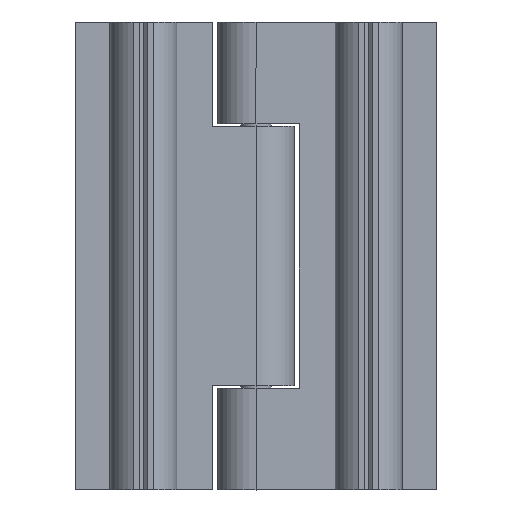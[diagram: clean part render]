
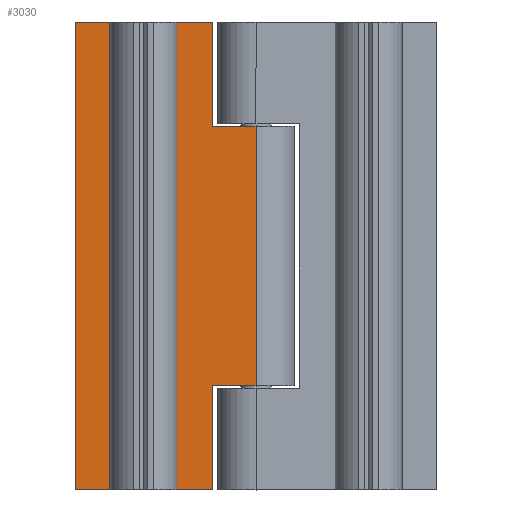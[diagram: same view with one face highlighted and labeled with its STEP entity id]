
A CAD part, top view. The second image highlights one B-rep face of the part: STEP entity #3030.
In plain terms, the highlighted planar face has unit normal (0, 0, 1).
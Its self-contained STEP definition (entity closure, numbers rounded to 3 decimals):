
#10 = CARTESIAN_POINT ( 'NONE',  ( 0., -25.5, 7.5 ) ) ;
#33 = VECTOR ( 'NONE', #1678, 1000. ) ;
#230 = DIRECTION ( 'NONE',  ( 0., -1., 0. ) ) ;
#268 = VECTOR ( 'NONE', #3311, 1000. ) ;
#299 = FACE_OUTER_BOUND ( 'NONE', #1759, .T. ) ;
#398 = ORIENTED_EDGE ( 'NONE', *, *, #1849, .F. ) ;
#457 = VERTEX_POINT ( 'NONE', #1279 ) ;
#459 = VECTOR ( 'NONE', #2544, 1000. ) ;
#548 = EDGE_CURVE ( 'NONE', #2606, #457, #1061, .T. ) ;
#551 = CARTESIAN_POINT ( 'NONE',  ( -8.5, 25.5, 7.5 ) ) ;
#589 = ORIENTED_EDGE ( 'NONE', *, *, #916, .T. ) ;
#705 = CARTESIAN_POINT ( 'NONE',  ( -17.75, -46., 7.5 ) ) ;
#750 = CARTESIAN_POINT ( 'NONE',  ( 0., 25.5, 7.5 ) ) ;
#753 = VERTEX_POINT ( 'NONE', #1485 ) ;
#755 = DIRECTION ( 'NONE',  ( 1., 0., 0. ) ) ;
#840 = VERTEX_POINT ( 'NONE', #955 ) ;
#883 = VECTOR ( 'NONE', #1461, 1000. ) ;
#916 = EDGE_CURVE ( 'NONE', #753, #3673, #1400, .T. ) ;
#955 = CARTESIAN_POINT ( 'NONE',  ( -8.5, 46., 7.5 ) ) ;
#1047 = CARTESIAN_POINT ( 'NONE',  ( 0., 0., 7.5 ) ) ;
#1061 = LINE ( 'NONE', #750, #1672 ) ;
#1206 = CARTESIAN_POINT ( 'NONE',  ( -8.5, -46., 7.5 ) ) ;
#1214 = EDGE_CURVE ( 'NONE', #3817, #753, #1252, .T. ) ;
#1252 = LINE ( 'NONE', #1544, #459 ) ;
#1279 = CARTESIAN_POINT ( 'NONE',  ( 0., 25.5, 7.5 ) ) ;
#1319 = CARTESIAN_POINT ( 'NONE',  ( -8.5, -25.5, 7.5 ) ) ;
#1349 = LINE ( 'NONE', #4027, #33 ) ;
#1371 = DIRECTION ( 'NONE',  ( 0., 0., 1. ) ) ;
#1400 = LINE ( 'NONE', #705, #268 ) ;
#1461 = DIRECTION ( 'NONE',  ( -1., 0., 0. ) ) ;
#1485 = CARTESIAN_POINT ( 'NONE',  ( -35.5, -46., 7.5 ) ) ;
#1544 = CARTESIAN_POINT ( 'NONE',  ( -35.5, 46., 7.5 ) ) ;
#1546 = VECTOR ( 'NONE', #230, 1000. ) ;
#1558 = CARTESIAN_POINT ( 'NONE',  ( -8.5, 25.5, 7.5 ) ) ;
#1575 = EDGE_CURVE ( 'NONE', #3065, #3673, #2812, .T. ) ;
#1586 = PLANE ( 'NONE',  #3728 ) ;
#1668 = ORIENTED_EDGE ( 'NONE', *, *, #548, .T. ) ;
#1672 = VECTOR ( 'NONE', #2700, 1000. ) ;
#1678 = DIRECTION ( 'NONE',  ( 0., -1., 0. ) ) ;
#1733 = LINE ( 'NONE', #2318, #2673 ) ;
#1759 = EDGE_LOOP ( 'NONE', ( #2467, #2003, #398, #3279, #589, #1929, #3238, #1668 ) ) ;
#1812 = VECTOR ( 'NONE', #2614, 1000. ) ;
#1849 = EDGE_CURVE ( 'NONE', #3817, #840, #1733, .T. ) ;
#1915 = EDGE_CURVE ( 'NONE', #840, #3336, #1349, .T. ) ;
#1929 = ORIENTED_EDGE ( 'NONE', *, *, #1575, .F. ) ;
#2003 = ORIENTED_EDGE ( 'NONE', *, *, #1915, .F. ) ;
#2014 = CARTESIAN_POINT ( 'NONE',  ( -35.5, 46., 7.5 ) ) ;
#2318 = CARTESIAN_POINT ( 'NONE',  ( -35.5, 46., 7.5 ) ) ;
#2467 = ORIENTED_EDGE ( 'NONE', *, *, #3639, .T. ) ;
#2544 = DIRECTION ( 'NONE',  ( 0., -1., 0. ) ) ;
#2606 = VERTEX_POINT ( 'NONE', #10 ) ;
#2614 = DIRECTION ( 'NONE',  ( 1., 0., 0. ) ) ;
#2673 = VECTOR ( 'NONE', #3625, 1000. ) ;
#2700 = DIRECTION ( 'NONE',  ( 0., 1., 0. ) ) ;
#2812 = LINE ( 'NONE', #4073, #1546 ) ;
#3030 = ADVANCED_FACE ( 'NONE', ( #299 ), #1586, .T. ) ;
#3065 = VERTEX_POINT ( 'NONE', #4008 ) ;
#3238 = ORIENTED_EDGE ( 'NONE', *, *, #3425, .T. ) ;
#3279 = ORIENTED_EDGE ( 'NONE', *, *, #1214, .T. ) ;
#3311 = DIRECTION ( 'NONE',  ( 1., 0., 0. ) ) ;
#3336 = VERTEX_POINT ( 'NONE', #1558 ) ;
#3400 = LINE ( 'NONE', #551, #883 ) ;
#3425 = EDGE_CURVE ( 'NONE', #3065, #2606, #3854, .T. ) ;
#3625 = DIRECTION ( 'NONE',  ( 1., 0., 0. ) ) ;
#3639 = EDGE_CURVE ( 'NONE', #457, #3336, #3400, .T. ) ;
#3673 = VERTEX_POINT ( 'NONE', #1206 ) ;
#3728 = AXIS2_PLACEMENT_3D ( 'NONE', #1047, #1371, #755 ) ;
#3817 = VERTEX_POINT ( 'NONE', #2014 ) ;
#3854 = LINE ( 'NONE', #1319, #1812 ) ;
#4008 = CARTESIAN_POINT ( 'NONE',  ( -8.5, -25.5, 7.5 ) ) ;
#4027 = CARTESIAN_POINT ( 'NONE',  ( -8.5, 46., 7.5 ) ) ;
#4073 = CARTESIAN_POINT ( 'NONE',  ( -8.5, 46., 7.5 ) ) ;
